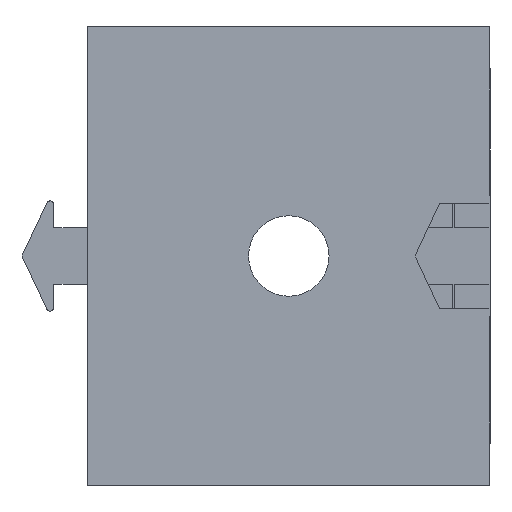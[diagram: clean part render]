
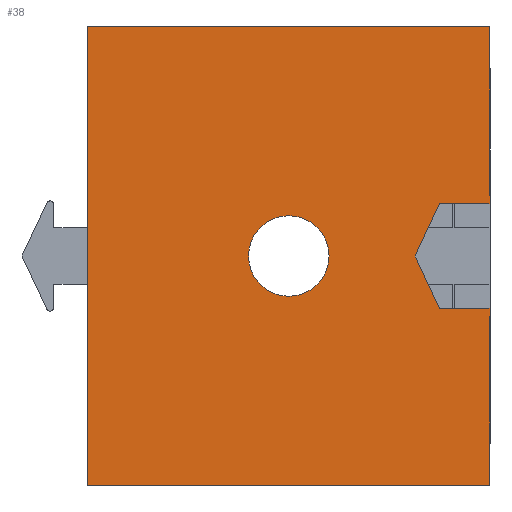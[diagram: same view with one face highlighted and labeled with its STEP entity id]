
A CAD part, front view. The second image highlights one B-rep face of the part: STEP entity #38.
In plain terms, the highlighted planar face has unit normal (0, -1, 0).
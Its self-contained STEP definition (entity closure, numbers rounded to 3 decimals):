
#38 = ADVANCED_FACE ( 'NONE', ( #1955, #1962 ), #2673, .T. ) ;
#70 = DIRECTION ( 'NONE',  ( -1., 0., 0. ) ) ;
#71 = DIRECTION ( 'NONE',  ( -1., 0., 0. ) ) ;
#72 = DIRECTION ( 'NONE',  ( 1., 0., 0. ) ) ;
#73 = CARTESIAN_POINT ( 'NONE',  ( 1.714, -21.3, 10.799 ) ) ;
#74 = DIRECTION ( 'NONE',  ( -0.423, 0., -0.906 ) ) ;
#76 = DIRECTION ( 'NONE',  ( 0.423, 0., -0.906 ) ) ;
#77 = CARTESIAN_POINT ( 'NONE',  ( 0., -21.3, 0. ) ) ;
#78 = DIRECTION ( 'NONE',  ( 0., 1., 0. ) ) ;
#79 = DIRECTION ( 'NONE',  ( 0., 0., 1. ) ) ;
#386 = CARTESIAN_POINT ( 'NONE',  ( 0., -21.3, 0. ) ) ;
#388 = DIRECTION ( 'NONE',  ( 0., 1., 0. ) ) ;
#389 = DIRECTION ( 'NONE',  ( 0., 0., 1. ) ) ;
#661 = CARTESIAN_POINT ( 'NONE',  ( 0., -21.3, 2.8 ) ) ;
#681 = DIRECTION ( 'NONE',  ( -1., 0., 0. ) ) ;
#746 = CARTESIAN_POINT ( 'NONE',  ( -10.75, -21.3, 10. ) ) ;
#747 = DIRECTION ( 'NONE',  ( 0., 0., -1. ) ) ;
#779 = CARTESIAN_POINT ( 'NONE',  ( 10.75, -21.3, 10. ) ) ;
#780 = DIRECTION ( 'NONE',  ( 0., 0., -1. ) ) ;
#821 = CARTESIAN_POINT ( 'NONE',  ( 10.75, -21.3, 10. ) ) ;
#822 = DIRECTION ( 'NONE',  ( 0., 0., -1. ) ) ;
#1391 = ORIENTED_EDGE ( 'NONE', *, *, #4106, .F. ) ;
#1439 = ORIENTED_EDGE ( 'NONE', *, *, #3627, .T. ) ;
#1442 = ORIENTED_EDGE ( 'NONE', *, *, #3732, .T. ) ;
#1448 = ORIENTED_EDGE ( 'NONE', *, *, #4070, .T. ) ;
#1478 = EDGE_LOOP ( 'NONE', ( #1528, #1391, #1439, #1448, #1507, #1530, #1516, #1523, #1527 ) ) ;
#1507 = ORIENTED_EDGE ( 'NONE', *, *, #3626, .F. ) ;
#1511 = ORIENTED_EDGE ( 'NONE', *, *, #3631, .T. ) ;
#1516 = ORIENTED_EDGE ( 'NONE', *, *, #3628, .F. ) ;
#1523 = ORIENTED_EDGE ( 'NONE', *, *, #3630, .F. ) ;
#1527 = ORIENTED_EDGE ( 'NONE', *, *, #3629, .F. ) ;
#1528 = ORIENTED_EDGE ( 'NONE', *, *, #4040, .F. ) ;
#1530 = ORIENTED_EDGE ( 'NONE', *, *, #4086, .F. ) ;
#1575 = CARTESIAN_POINT ( 'NONE',  ( 0., -21.3, -2.8 ) ) ;
#1576 = CARTESIAN_POINT ( 'NONE',  ( 9.375, -21.3, 5.629 ) ) ;
#1577 = CARTESIAN_POINT ( 'NONE',  ( 10.75, -21.3, -12.25 ) ) ;
#1581 = CARTESIAN_POINT ( 'NONE',  ( 8.056, -21.3, 2.8 ) ) ;
#1603 = CARTESIAN_POINT ( 'NONE',  ( -10.75, -21.3, -12.25 ) ) ;
#1778 = EDGE_LOOP ( 'NONE', ( #1511, #1442 ) ) ;
#1955 = FACE_OUTER_BOUND ( 'NONE', #1478, .T. ) ;
#1962 = FACE_BOUND ( 'NONE', #1778, .T. ) ;
#2005 = LINE ( 'NONE', #1577, #2010 ) ;
#2007 = LINE ( 'NONE', #3603, #2009 ) ;
#2008 = LINE ( 'NONE', #1576, #2014 ) ;
#2009 = VECTOR ( 'NONE', #71, 1000. ) ;
#2010 = VECTOR ( 'NONE', #70, 1000. ) ;
#2011 = LINE ( 'NONE', #1575, #2013 ) ;
#2012 = LINE ( 'NONE', #73, #2016 ) ;
#2013 = VECTOR ( 'NONE', #72, 1000. ) ;
#2014 = VECTOR ( 'NONE', #74, 1000. ) ;
#2016 = VECTOR ( 'NONE', #76, 1000. ) ;
#2020 = CIRCLE ( 'NONE', #3748, 2.15 ) ;
#2189 = CIRCLE ( 'NONE', #3837, 2.15 ) ;
#2342 = VERTEX_POINT ( 'NONE', #2845 ) ;
#2349 = VERTEX_POINT ( 'NONE', #2852 ) ;
#2375 = VERTEX_POINT ( 'NONE', #2878 ) ;
#2382 = VERTEX_POINT ( 'NONE', #2885 ) ;
#2386 = VERTEX_POINT ( 'NONE', #2889 ) ;
#2439 = VERTEX_POINT ( 'NONE', #2942 ) ;
#2443 = VERTEX_POINT ( 'NONE', #2946 ) ;
#2456 = VERTEX_POINT ( 'NONE', #2959 ) ;
#2487 = VERTEX_POINT ( 'NONE', #1581 ) ;
#2496 = VERTEX_POINT ( 'NONE', #1603 ) ;
#2520 = VERTEX_POINT ( 'NONE', #3617 ) ;
#2672 = CARTESIAN_POINT ( 'NONE',  ( 0., -21.3, 10. ) ) ;
#2673 = PLANE ( 'NONE',  #3783 ) ;
#2675 = DIRECTION ( 'NONE',  ( 0., -1., 0. ) ) ;
#2676 = DIRECTION ( 'NONE',  ( 0., 0., -1. ) ) ;
#2845 = CARTESIAN_POINT ( 'NONE',  ( 6.75, -21.3, 0. ) ) ;
#2852 = CARTESIAN_POINT ( 'NONE',  ( 8.056, -21.3, -2.8 ) ) ;
#2878 = CARTESIAN_POINT ( 'NONE',  ( 10.75, -21.3, 12.25 ) ) ;
#2885 = CARTESIAN_POINT ( 'NONE',  ( 10.75, -21.3, -12.25 ) ) ;
#2889 = CARTESIAN_POINT ( 'NONE',  ( 10.75, -21.3, -2.8 ) ) ;
#2942 = CARTESIAN_POINT ( 'NONE',  ( 10.75, -21.3, 2.8 ) ) ;
#2946 = CARTESIAN_POINT ( 'NONE',  ( 0., -21.3, 2.15 ) ) ;
#2959 = CARTESIAN_POINT ( 'NONE',  ( 0., -21.3, -2.15 ) ) ;
#3062 = LINE ( 'NONE', #661, #3105 ) ;
#3105 = VECTOR ( 'NONE', #681, 1000. ) ;
#3159 = LINE ( 'NONE', #746, #3160 ) ;
#3160 = VECTOR ( 'NONE', #747, 1000. ) ;
#3190 = LINE ( 'NONE', #779, #3191 ) ;
#3191 = VECTOR ( 'NONE', #780, 1000. ) ;
#3227 = LINE ( 'NONE', #821, #3228 ) ;
#3228 = VECTOR ( 'NONE', #822, 1000. ) ;
#3603 = CARTESIAN_POINT ( 'NONE',  ( 10.75, -21.3, 12.25 ) ) ;
#3617 = CARTESIAN_POINT ( 'NONE',  ( -10.75, -21.3, 12.25 ) ) ;
#3626 = EDGE_CURVE ( 'NONE', #2382, #2496, #2005, .T. ) ;
#3627 = EDGE_CURVE ( 'NONE', #2375, #2520, #2007, .T. ) ;
#3628 = EDGE_CURVE ( 'NONE', #2349, #2386, #2011, .T. ) ;
#3629 = EDGE_CURVE ( 'NONE', #2487, #2342, #2008, .T. ) ;
#3630 = EDGE_CURVE ( 'NONE', #2342, #2349, #2012, .T. ) ;
#3631 = EDGE_CURVE ( 'NONE', #2443, #2456, #2020, .T. ) ;
#3732 = EDGE_CURVE ( 'NONE', #2456, #2443, #2189, .T. ) ;
#3748 = AXIS2_PLACEMENT_3D ( 'NONE', #77, #78, #79 ) ;
#3783 = AXIS2_PLACEMENT_3D ( 'NONE', #2672, #2675, #2676 ) ;
#3837 = AXIS2_PLACEMENT_3D ( 'NONE', #386, #388, #389 ) ;
#4040 = EDGE_CURVE ( 'NONE', #2439, #2487, #3062, .T. ) ;
#4070 = EDGE_CURVE ( 'NONE', #2520, #2496, #3159, .T. ) ;
#4086 = EDGE_CURVE ( 'NONE', #2386, #2382, #3190, .T. ) ;
#4106 = EDGE_CURVE ( 'NONE', #2375, #2439, #3227, .T. ) ;
